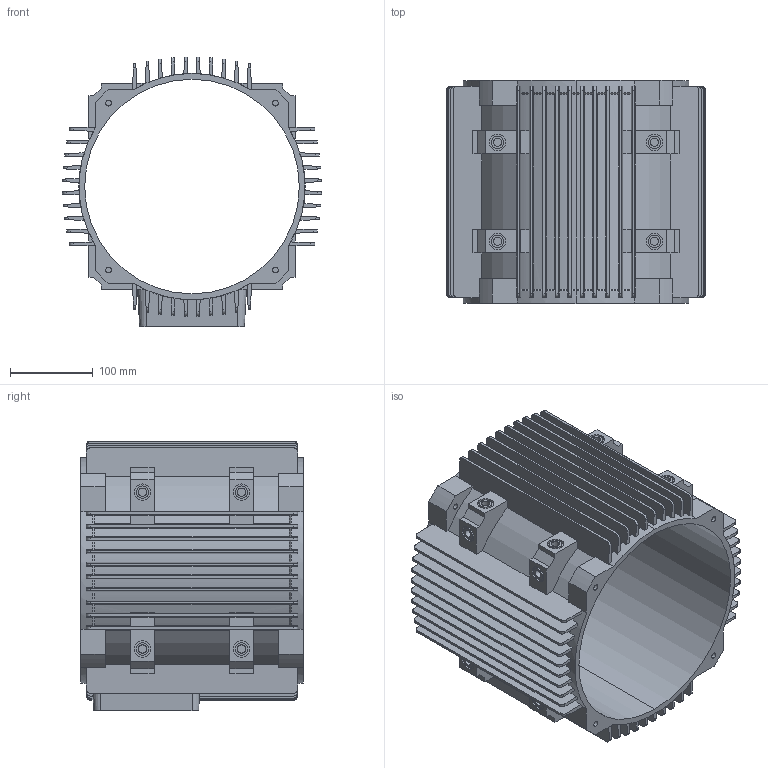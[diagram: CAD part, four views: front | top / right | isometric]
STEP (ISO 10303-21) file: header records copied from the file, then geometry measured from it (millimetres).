
FILE_DESCRIPTION (( 'STEP AP203' ), '1' );
FILE_NAME ('160M.STEP', '2023-02-21T10:22:51', ( '' ), ( '' ), 'SwSTEP 2.0', 'SolidWorks 2018', '' );
FILE_SCHEMA (( 'CONFIG_CONTROL_DESIGN' ));
Length unit declared in the file: millimetre
Products named in the file (1): 160M
Bounding box: 313.76 x 270 x 326.88 mm (x, y, z)
Volume: 2875634.7 mm3; surface area: 1033412.3 mm2
Topology: 1 solids, 1 shells, 794 faces, 2259 edges, 1504 vertices
Faces by surface type: plane 453, cylinder 270, cone 71
Entity records: 26186 total; most frequent: CARTESIAN_POINT 5630, ORIENTED_EDGE 4518, DIRECTION 4071, EDGE_CURVE 2259, VERTEX_POINT 1504, LINE 1401, VECTOR 1401, AXIS2_PLACEMENT_3D 1335
